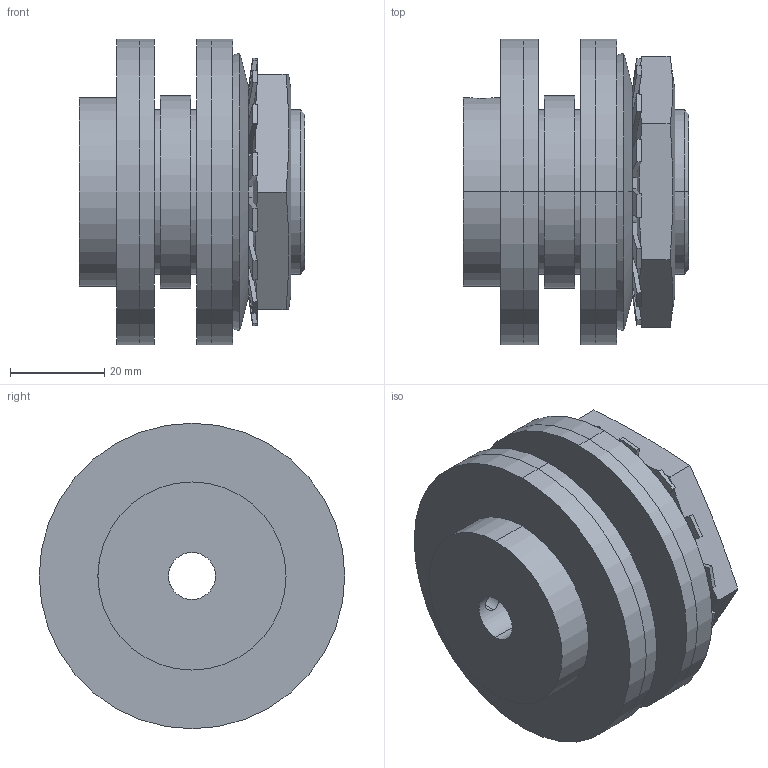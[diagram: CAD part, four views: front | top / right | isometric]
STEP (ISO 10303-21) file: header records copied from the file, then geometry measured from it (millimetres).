
FILE_DESCRIPTION (( 'STEP AP203' ), '1' );
FILE_NAME ('SS250.STEP', '2009-09-30T17:56:21', ( 'USER' ), ( 'HOME' ), 'SwSTEP 2.0', 'SolidWorks 2007', '' );
FILE_SCHEMA (( 'CONFIG_CONTROL_DESIGN' ));
Length unit declared in the file: millimetre
Products named in the file (1): SS250
Bounding box: 48 x 65 x 65 mm (x, y, z)
Volume: 96484.6 mm3; surface area: 43356.8 mm2
Topology: 21 solids, 21 shells, 184 faces, 408 edges, 270 vertices
Faces by surface type: plane 142, cylinder 30, cone 12
Entity records: 5275 total; most frequent: CARTESIAN_POINT 1079, DIRECTION 828, ORIENTED_EDGE 816, EDGE_CURVE 408, LINE 318, VECTOR 318, VERTEX_POINT 270, AXIS2_PLACEMENT_3D 255
